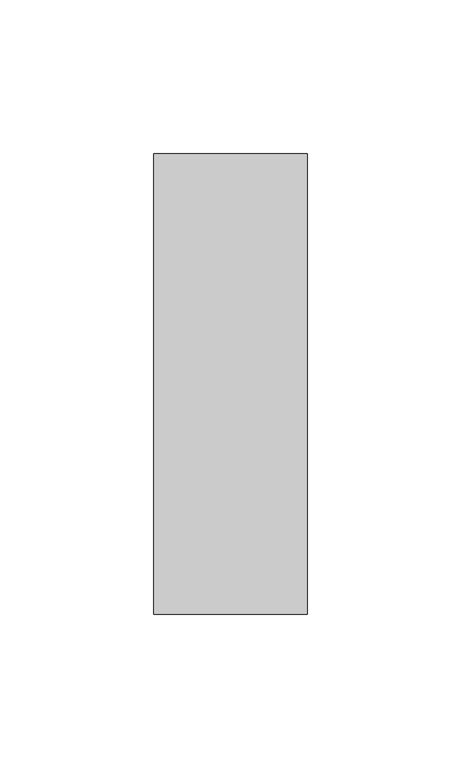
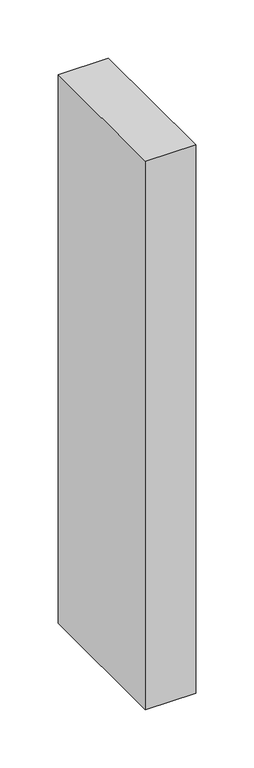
"""IFC4 building model written with IfcOpenShell, lengths in millimetres: member geometry, Прямоугольный импост : 50х150мм."""

from ifc_helpers import new_model, si_unit, frame, origin, place, context, project, spatial, polyline, outline, extrude, source, transform, mapped, element, save


def member_c6c4f21c(model_context):
    return source(origin(), model_context, "Body", "SweptSolid", [
        extrude(outline(polyline([(0.0, 75.0), (0.0, -75.0), (-50.0, -75.0), (-50.0, 75.0), (0.0, 75.0)])), frame((0.0, 0.0, -576.0), z_axis=(0.0, 0.0, 1.0), x_axis=(1.0, 0.0, 0.0)), (0.0, 0.0, 1.0), 576.0),
    ])


if __name__ == "__main__":
    model = new_model("IFC4")
    model_context = context("Model", 3, world=origin())
    ifc_project = project(units=[si_unit("LENGTHUNIT", "METRE", prefix="MILLI")], contexts=[model_context])
    site = spatial("IfcSite", under=ifc_project)
    building = spatial("IfcBuilding", under=site)
    placement = place(None, origin())
    member_shape = member_c6c4f21c(model_context)
    element("IfcMember", 1, ObjectType="Прямоугольный импост : 50х150мм", at=placement, inside=building, context=model_context, shape_type="MappedRepresentation", body=[
        mapped(member_shape, transform((0.0, 0.0, 0.0), x_axis=(1.0, 0.0, 0.0), y_axis=(0.0, 1.0, 0.0), z_axis=(0.0, 0.0, 1.0))),
    ])
    save(model, "model.ifc")
